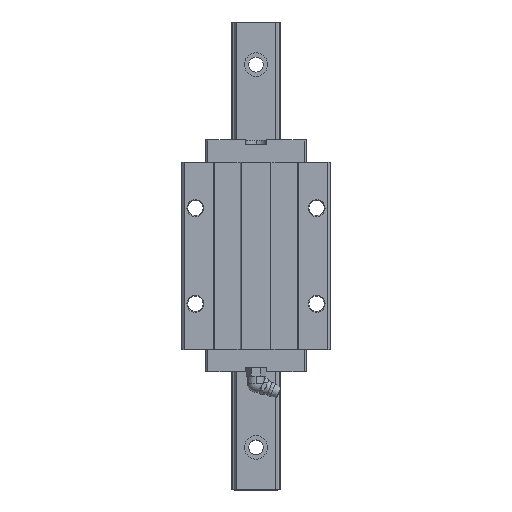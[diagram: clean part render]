
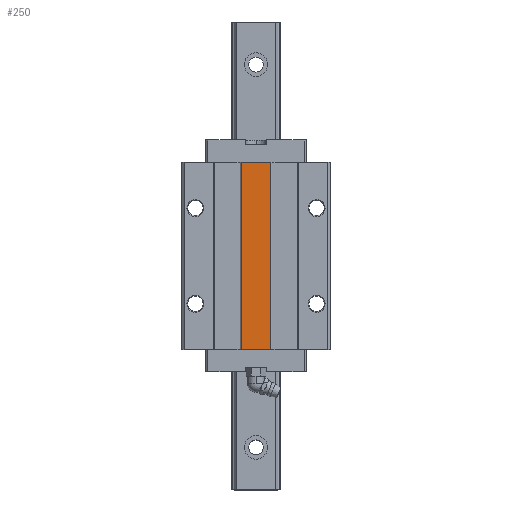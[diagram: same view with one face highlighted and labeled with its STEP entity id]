
A CAD part, top view. The second image highlights one B-rep face of the part: STEP entity #250.
In plain terms, the highlighted planar face has unit normal (0, 0, 1).
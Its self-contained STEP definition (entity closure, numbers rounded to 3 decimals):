
#250=ADVANCED_FACE('',(#594),#595,.F.);
#594=FACE_OUTER_BOUND('',#1126,.T.);
#595=PLANE('',#1127);
#1126=EDGE_LOOP('',(#2195,#2196,#2197,#2198));
#1127=AXIS2_PLACEMENT_3D('',#2199,#2200,#2201);
#2195=ORIENTED_EDGE('',*,*,#4007,.T.);
#2196=ORIENTED_EDGE('',*,*,#4008,.F.);
#2197=ORIENTED_EDGE('',*,*,#4009,.F.);
#2198=ORIENTED_EDGE('',*,*,#4010,.T.);
#2199=CARTESIAN_POINT('',(7.0,71.0,36.0));
#2200=DIRECTION('',(0.,0.,-1.0));
#2201=DIRECTION('',(0.0,-1.0,0.));
#4007=EDGE_CURVE('',#5172,#5173,#5174,.T.);
#4008=EDGE_CURVE('',#5175,#5173,#5176,.T.);
#4009=EDGE_CURVE('',#5177,#5175,#5178,.T.);
#4010=EDGE_CURVE('',#5177,#5172,#5179,.T.);
#5172=VERTEX_POINT('',#6770);
#5173=VERTEX_POINT('',#6771);
#5174=LINE('',#6772,#6773);
#5175=VERTEX_POINT('',#6774);
#5176=LINE('',#6775,#6776);
#5177=VERTEX_POINT('',#6777);
#5178=LINE('',#6778,#6779);
#5179=LINE('',#6780,#6781);
#6770=CARTESIAN_POINT('',(-7.0,79.5,36.0));
#6771=CARTESIAN_POINT('',(-7.0,-8.5,36.0));
#6772=CARTESIAN_POINT('',(-7.0,71.0,36.0));
#6773=VECTOR('',#8584,1000.0);
#6774=CARTESIAN_POINT('',(7.0,-8.5,36.0));
#6775=CARTESIAN_POINT('',(7.0,-8.5,36.0));
#6776=VECTOR('',#8585,1000.0);
#6777=CARTESIAN_POINT('',(7.0,79.5,36.0));
#6778=CARTESIAN_POINT('',(7.0,71.0,36.0));
#6779=VECTOR('',#8586,1000.0);
#6780=CARTESIAN_POINT('',(7.0,79.5,36.0));
#6781=VECTOR('',#8587,1000.0);
#8584=DIRECTION('',(0.,-1.0,0.));
#8585=DIRECTION('',(-1.0,0.,0.));
#8586=DIRECTION('',(0.,-1.0,0.));
#8587=DIRECTION('',(-1.0,0.,0.));
